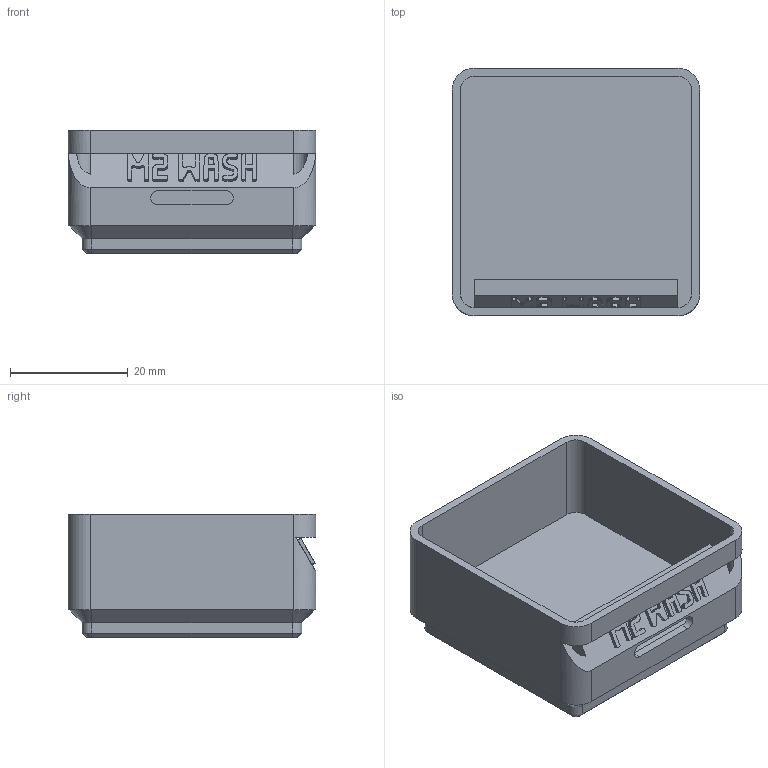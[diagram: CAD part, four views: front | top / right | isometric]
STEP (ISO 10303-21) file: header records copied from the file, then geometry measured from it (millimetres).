
FILE_DESCRIPTION(('Open CASCADE Model'),'2;1');
FILE_NAME('Open CASCADE Shape Model','2026-11-03T17:13:26',('Author'),( 'Open CASCADE'),'Open CASCADE STEP processor 8.0','build123d', 'Unknown');
FILE_SCHEMA(('AUTOMOTIVE_DESIGN { 1 0 10303 214 1 1 1 1 }'));
Length unit declared in the file: millimetre
Products named in the file (1): COMPOUND
Bounding box: 42 x 42 x 21 mm (x, y, z)
Volume: 12854.4 mm3; surface area: 9305.3 mm2
Topology: 1 solids, 1 shells, 675 faces, 1980 edges, 1314 vertices
Faces by surface type: plane 653, cylinder 14, cone 8
Entity records: 46432 total; most frequent: CARTESIAN_POINT 9338, DIRECTION 5996, LINE 4528, VECTOR 4528, ORIENTED_EDGE 3960, PCURVE 3960, DEFINITIONAL_REPRESENTATION 3960, EDGE_CURVE 1980
